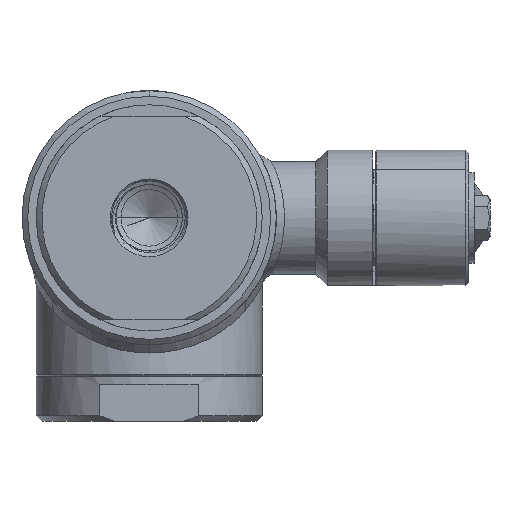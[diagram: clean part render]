
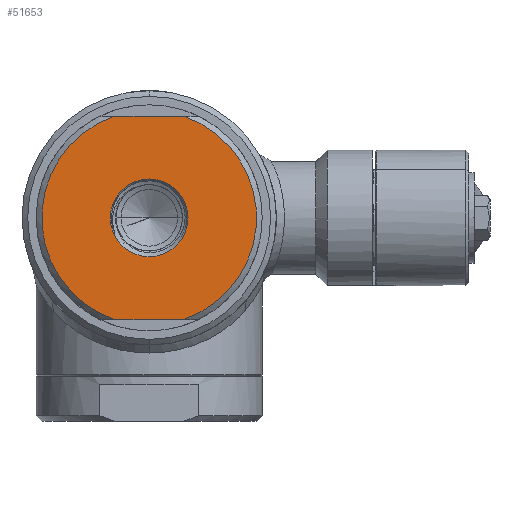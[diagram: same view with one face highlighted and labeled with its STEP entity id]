
A CAD part, front view. The second image highlights one B-rep face of the part: STEP entity #51653.
In plain terms, the highlighted planar face has unit normal (0, -1, 0).
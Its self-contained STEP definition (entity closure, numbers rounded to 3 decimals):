
#20730=CARTESIAN_POINT('',(0.,-36.,0.));
#20731=DIRECTION('',(0.,1.,0.));
#20732=DIRECTION('',(1.,0.,0.));
#20733=AXIS2_PLACEMENT_3D('',#20730,#20731,#20732);
#21007=CARTESIAN_POINT('',(0.,-36.,0.));
#21008=DIRECTION('',(0.,-1.,0.));
#21009=DIRECTION('',(1.,0.,0.));
#21010=AXIS2_PLACEMENT_3D('',#21007,#21008,#21009);
#21022=DIRECTION('',(-1.,0.,0.));
#21023=VECTOR('',#21022,12.166);
#21024=CARTESIAN_POINT('',(6.083,-36.,
18.));
#21025=LINE('',#21024,#21023);
#21029=DIRECTION('',(-1.,0.,0.));
#21030=VECTOR('',#21029,12.166);
#21031=CARTESIAN_POINT('',(6.083,-36.,
-18.));
#21032=LINE('',#21031,#21030);
#21036=CARTESIAN_POINT('',(0.,-36.,0.));
#21037=DIRECTION('',(0.,-1.,0.));
#21038=DIRECTION('',(-0.32,0.,0.947));
#21039=AXIS2_PLACEMENT_3D('',#21036,#21037,#21038);
#21044=CARTESIAN_POINT('',(-6.083,-36.,
-18.));
#21061=CARTESIAN_POINT('',(6.083,-36.,
-18.));
#21080=CARTESIAN_POINT('',(0.,-36.,0.));
#21081=DIRECTION('',(0.,-1.,0.));
#21082=DIRECTION('',(0.32,0.,-0.947));
#21083=AXIS2_PLACEMENT_3D('',#21080,#21081,#21082);
#21209=CARTESIAN_POINT('',(-6.083,-36.,
18.));
#21235=CARTESIAN_POINT('',(6.083,-36.,
18.));
#36744=CARTESIAN_POINT('',(6.875,-36.,0.));
#36745=CARTESIAN_POINT('',(-6.875,-36.,0.));
#36746=VERTEX_POINT('',#36744);
#36747=VERTEX_POINT('',#36745);
#36789=VERTEX_POINT('',#21209);
#36792=VERTEX_POINT('',#21044);
#36795=VERTEX_POINT('',#21061);
#36798=VERTEX_POINT('',#21235);
#51634=CARTESIAN_POINT('',(0.,-36.,0.));
#51635=DIRECTION('',(0.,-1.,0.));
#51636=DIRECTION('',(-1.,0.,0.));
#51637=AXIS2_PLACEMENT_3D('',#51634,#51635,#51636);
#51638=PLANE('',#51637);
#51640=ORIENTED_EDGE('',*,*,#51639,.F.);
#51642=ORIENTED_EDGE('',*,*,#51641,.F.);
#51644=ORIENTED_EDGE('',*,*,#51643,.F.);
#51646=ORIENTED_EDGE('',*,*,#51645,.T.);
#51647=EDGE_LOOP('',(#51640,#51642,#51644,#51646));
#51648=FACE_OUTER_BOUND('',#51647,.F.);
#51649=ORIENTED_EDGE('',*,*,#51354,.F.);
#51650=ORIENTED_EDGE('',*,*,#51544,.T.);
#51651=EDGE_LOOP('',(#51649,#51650));
#51652=FACE_BOUND('',#51651,.F.);
#51653=ADVANCED_FACE('',(#51648,#51652),#51638,.T.);
#20734=CIRCLE('',#20733,6.875);
#21011=CIRCLE('',#21010,6.875);
#21040=CIRCLE('',#21039,19.);
#21084=CIRCLE('',#21083,19.);
#51354=EDGE_CURVE('',#36746,#36747,#20734,.T.);
#51544=EDGE_CURVE('',#36746,#36747,#21011,.T.);
#51639=EDGE_CURVE('',#36789,#36792,#21040,.T.);
#51641=EDGE_CURVE('',#36798,#36789,#21025,.T.);
#51643=EDGE_CURVE('',#36795,#36798,#21084,.T.);
#51645=EDGE_CURVE('',#36795,#36792,#21032,.T.);
